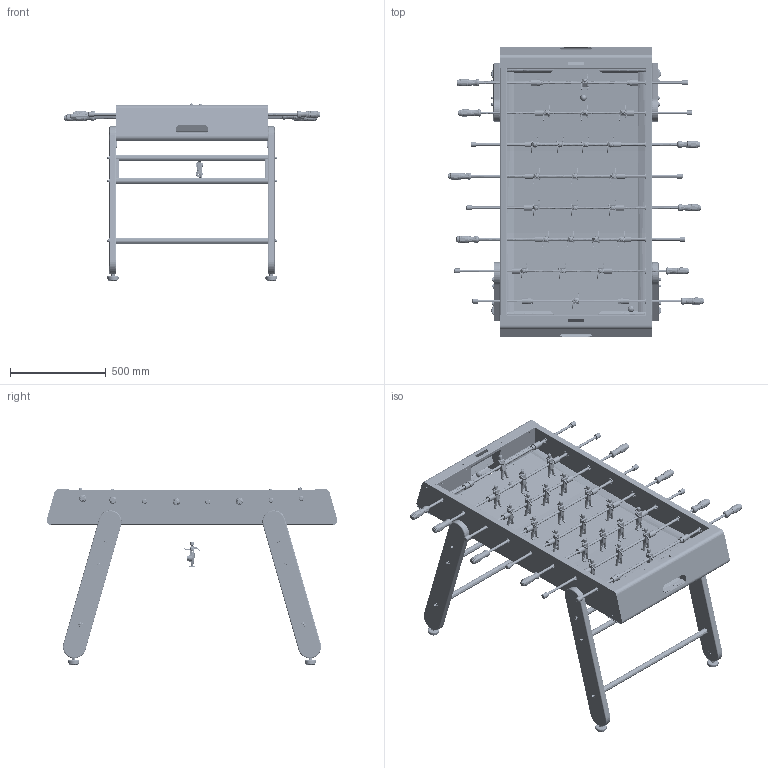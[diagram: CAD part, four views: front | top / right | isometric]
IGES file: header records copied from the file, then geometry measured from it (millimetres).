
Start section: START RECORD GO HERE.
Global section: file name: RS#4_NEW.igs; native system: DASSAULT SYSTEMES CATIA Version 5-6 Release 2017 - www.3ds.com; preprocessor: V5-6R2017_5.27.0.0.10-19-2016.20.00; author: ingenieria; organization: RAFA-PC; date: 20200806.151856; units: millimetre
Bounding box: 1333.56 x 1518.8 x 925.17 mm (x, y, z)
Surface area: 11186807.7 mm2 (no closed solid volume)
Topology: 0 solids, 0 shells, 11172 faces, 54128 edges, 54066 vertices
Faces by surface type: revolution 5942, plane 4800, bspline 430
